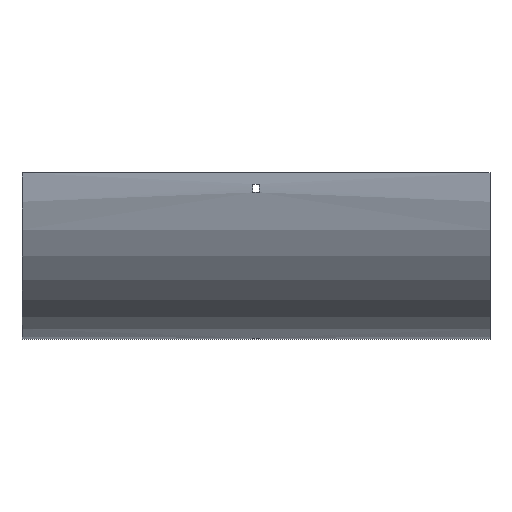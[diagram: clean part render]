
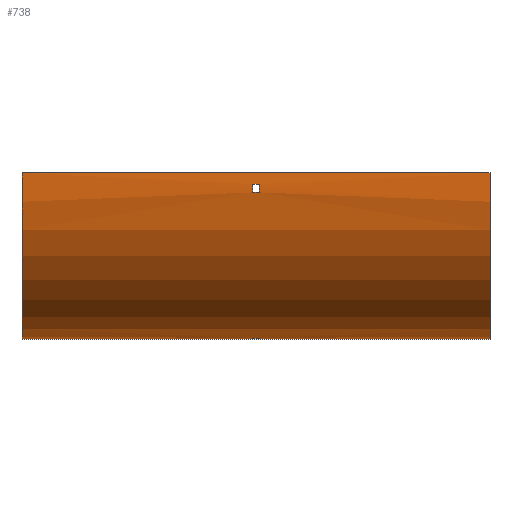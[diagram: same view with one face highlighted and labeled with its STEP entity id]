
A CAD part, front view. The second image highlights one B-rep face of the part: STEP entity #738.
In plain terms, the highlighted cylindrical face has radius 179 mm (diameter 358 mm), a partial arc.
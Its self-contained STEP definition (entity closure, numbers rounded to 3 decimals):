
#24 = ORIENTED_EDGE ( 'NONE', *, *, #1436, .T. ) ;
#25 = DIRECTION ( 'NONE',  ( 1., 0., 0. ) ) ;
#27 = CARTESIAN_POINT ( 'NONE',  ( 3.25, 100., 0. ) ) ;
#28 = AXIS2_PLACEMENT_3D ( 'NONE', #717, #854, #1239 ) ;
#74 = CARTESIAN_POINT ( 'NONE',  ( -3.25, 88., -178.597 ) ) ;
#77 = ORIENTED_EDGE ( 'NONE', *, *, #1086, .T. ) ;
#127 = EDGE_CURVE ( 'NONE', #460, #1119, #1664, .T. ) ;
#150 = EDGE_LOOP ( 'NONE', ( #277, #1216, #1156, #498 ) ) ;
#156 = FACE_OUTER_BOUND ( 'NONE', #1394, .T. ) ;
#158 = DIRECTION ( 'NONE',  ( -1., 0., 0. ) ) ;
#161 = CIRCLE ( 'NONE', #852, 179. ) ;
#220 = VERTEX_POINT ( 'NONE', #1446 ) ;
#258 = DIRECTION ( 'NONE',  ( -1., 0., 0. ) ) ;
#265 = CARTESIAN_POINT ( 'NONE',  ( 252., -78.597, -12. ) ) ;
#277 = ORIENTED_EDGE ( 'NONE', *, *, #1265, .F. ) ;
#322 = ORIENTED_EDGE ( 'NONE', *, *, #338, .T. ) ;
#331 = AXIS2_PLACEMENT_3D ( 'NONE', #27, #1352, #980 ) ;
#338 = EDGE_CURVE ( 'NONE', #621, #220, #604, .T. ) ;
#365 = AXIS2_PLACEMENT_3D ( 'NONE', #971, #158, #1593 ) ;
#383 = CARTESIAN_POINT ( 'NONE',  ( -3.25, -77.764, -21. ) ) ;
#389 = EDGE_CURVE ( 'NONE', #1119, #1249, #904, .T. ) ;
#420 = VERTEX_POINT ( 'NONE', #567 ) ;
#433 = DIRECTION ( 'NONE',  ( 0., 0., 1. ) ) ;
#437 = DIRECTION ( 'NONE',  ( 0., 0., 1. ) ) ;
#441 = CARTESIAN_POINT ( 'NONE',  ( -252., 100., 0. ) ) ;
#460 = VERTEX_POINT ( 'NONE', #74 ) ;
#471 = CARTESIAN_POINT ( 'NONE',  ( -3.25, 100., 0. ) ) ;
#479 = DIRECTION ( 'NONE',  ( 1., 0., 0. ) ) ;
#480 = DIRECTION ( 'NONE',  ( 1., 0., 0. ) ) ;
#490 = EDGE_CURVE ( 'NONE', #1271, #420, #1507, .T. ) ;
#498 = ORIENTED_EDGE ( 'NONE', *, *, #127, .F. ) ;
#553 = VECTOR ( 'NONE', #1417, 1000. ) ;
#567 = CARTESIAN_POINT ( 'NONE',  ( -252., 100., -179. ) ) ;
#568 = ORIENTED_EDGE ( 'NONE', *, *, #711, .T. ) ;
#571 = CARTESIAN_POINT ( 'NONE',  ( 252., -77.764, -21. ) ) ;
#600 = VERTEX_POINT ( 'NONE', #1565 ) ;
#604 = CIRCLE ( 'NONE', #331, 179. ) ;
#610 = CARTESIAN_POINT ( 'NONE',  ( 252., 100., -179. ) ) ;
#612 = CARTESIAN_POINT ( 'NONE',  ( 252., -79., 0. ) ) ;
#613 = CARTESIAN_POINT ( 'NONE',  ( 252., 88., -178.597 ) ) ;
#614 = CARTESIAN_POINT ( 'NONE',  ( 3.25, 79., -177.764 ) ) ;
#621 = VERTEX_POINT ( 'NONE', #1555 ) ;
#694 = FACE_BOUND ( 'NONE', #150, .T. ) ;
#695 = AXIS2_PLACEMENT_3D ( 'NONE', #471, #832, #437 ) ;
#696 = VECTOR ( 'NONE', #1452, 1000. ) ;
#711 = EDGE_CURVE ( 'NONE', #920, #420, #161, .T. ) ;
#717 = CARTESIAN_POINT ( 'NONE',  ( 252., 100., 0. ) ) ;
#721 = DIRECTION ( 'NONE',  ( 0., 0., -1. ) ) ;
#738 = ADVANCED_FACE ( 'NONE', ( #156, #1592, #694 ), #1335, .T. ) ;
#741 = ORIENTED_EDGE ( 'NONE', *, *, #490, .F. ) ;
#776 = LINE ( 'NONE', #1026, #553 ) ;
#803 = VECTOR ( 'NONE', #479, 1000. ) ;
#808 = CARTESIAN_POINT ( 'NONE',  ( 252., -79., 0. ) ) ;
#809 = DIRECTION ( 'NONE',  ( 0., 1., 0. ) ) ;
#821 = AXIS2_PLACEMENT_3D ( 'NONE', #849, #1606, #433 ) ;
#832 = DIRECTION ( 'NONE',  ( -1., 0., 0. ) ) ;
#835 = LINE ( 'NONE', #571, #696 ) ;
#838 = EDGE_CURVE ( 'NONE', #1249, #874, #776, .T. ) ;
#845 = VERTEX_POINT ( 'NONE', #383 ) ;
#849 = CARTESIAN_POINT ( 'NONE',  ( 252., 100., 0. ) ) ;
#852 = AXIS2_PLACEMENT_3D ( 'NONE', #441, #25, #721 ) ;
#854 = DIRECTION ( 'NONE',  ( 1., 0., 0. ) ) ;
#859 = DIRECTION ( 'NONE',  ( -1., 0., 0. ) ) ;
#874 = VERTEX_POINT ( 'NONE', #1292 ) ;
#895 = EDGE_LOOP ( 'NONE', ( #977, #77, #1623, #322 ) ) ;
#904 = CIRCLE ( 'NONE', #365, 179. ) ;
#920 = VERTEX_POINT ( 'NONE', #1458 ) ;
#937 = CARTESIAN_POINT ( 'NONE',  ( -3.25, 100., 0. ) ) ;
#965 = VERTEX_POINT ( 'NONE', #808 ) ;
#971 = CARTESIAN_POINT ( 'NONE',  ( 3.25, 100., 0. ) ) ;
#977 = ORIENTED_EDGE ( 'NONE', *, *, #1620, .T. ) ;
#980 = DIRECTION ( 'NONE',  ( 0., 0., -1. ) ) ;
#991 = ORIENTED_EDGE ( 'NONE', *, *, #1067, .F. ) ;
#1026 = CARTESIAN_POINT ( 'NONE',  ( 252., 79., -177.764 ) ) ;
#1052 = CARTESIAN_POINT ( 'NONE',  ( 252., 100., -179. ) ) ;
#1067 = EDGE_CURVE ( 'NONE', #965, #1271, #1420, .T. ) ;
#1086 = EDGE_CURVE ( 'NONE', #845, #600, #1282, .T. ) ;
#1119 = VERTEX_POINT ( 'NONE', #1217 ) ;
#1156 = ORIENTED_EDGE ( 'NONE', *, *, #389, .F. ) ;
#1174 = LINE ( 'NONE', #612, #1313 ) ;
#1216 = ORIENTED_EDGE ( 'NONE', *, *, #838, .F. ) ;
#1217 = CARTESIAN_POINT ( 'NONE',  ( 3.25, 88., -178.597 ) ) ;
#1239 = DIRECTION ( 'NONE',  ( 0., 0., -1. ) ) ;
#1249 = VERTEX_POINT ( 'NONE', #614 ) ;
#1265 = EDGE_CURVE ( 'NONE', #874, #460, #1369, .T. ) ;
#1271 = VERTEX_POINT ( 'NONE', #1052 ) ;
#1274 = VECTOR ( 'NONE', #480, 1000. ) ;
#1282 = CIRCLE ( 'NONE', #695, 179. ) ;
#1292 = CARTESIAN_POINT ( 'NONE',  ( -3.25, 79., -177.764 ) ) ;
#1313 = VECTOR ( 'NONE', #258, 1000. ) ;
#1335 = CYLINDRICAL_SURFACE ( 'NONE', #821, 179. ) ;
#1352 = DIRECTION ( 'NONE',  ( 1., 0., 0. ) ) ;
#1369 = CIRCLE ( 'NONE', #1477, 179. ) ;
#1394 = EDGE_LOOP ( 'NONE', ( #568, #741, #991, #24 ) ) ;
#1404 = EDGE_CURVE ( 'NONE', #600, #621, #1573, .T. ) ;
#1417 = DIRECTION ( 'NONE',  ( -1., 0., 0. ) ) ;
#1420 = CIRCLE ( 'NONE', #28, 179. ) ;
#1436 = EDGE_CURVE ( 'NONE', #965, #920, #1174, .T. ) ;
#1446 = CARTESIAN_POINT ( 'NONE',  ( 3.25, -77.764, -21. ) ) ;
#1452 = DIRECTION ( 'NONE',  ( -1., 0., 0. ) ) ;
#1458 = CARTESIAN_POINT ( 'NONE',  ( -252., -79., 0. ) ) ;
#1459 = DIRECTION ( 'NONE',  ( 1., 0., 0. ) ) ;
#1477 = AXIS2_PLACEMENT_3D ( 'NONE', #937, #1459, #809 ) ;
#1507 = LINE ( 'NONE', #610, #1580 ) ;
#1555 = CARTESIAN_POINT ( 'NONE',  ( 3.25, -78.597, -12. ) ) ;
#1565 = CARTESIAN_POINT ( 'NONE',  ( -3.25, -78.597, -12. ) ) ;
#1573 = LINE ( 'NONE', #265, #803 ) ;
#1580 = VECTOR ( 'NONE', #859, 1000. ) ;
#1592 = FACE_BOUND ( 'NONE', #895, .T. ) ;
#1593 = DIRECTION ( 'NONE',  ( 0., 0., 1. ) ) ;
#1606 = DIRECTION ( 'NONE',  ( -1., 0., 0. ) ) ;
#1620 = EDGE_CURVE ( 'NONE', #220, #845, #835, .T. ) ;
#1623 = ORIENTED_EDGE ( 'NONE', *, *, #1404, .T. ) ;
#1664 = LINE ( 'NONE', #613, #1274 ) ;
